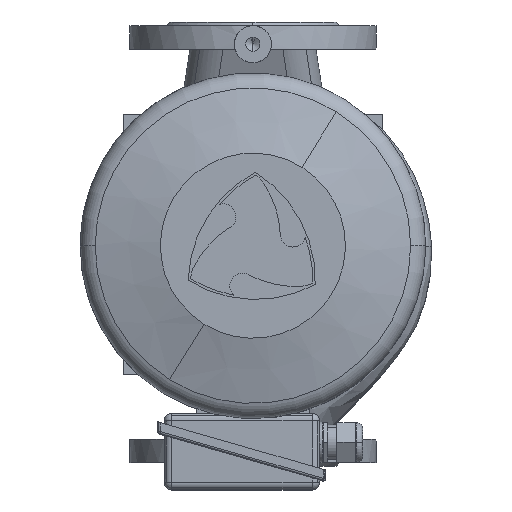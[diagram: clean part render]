
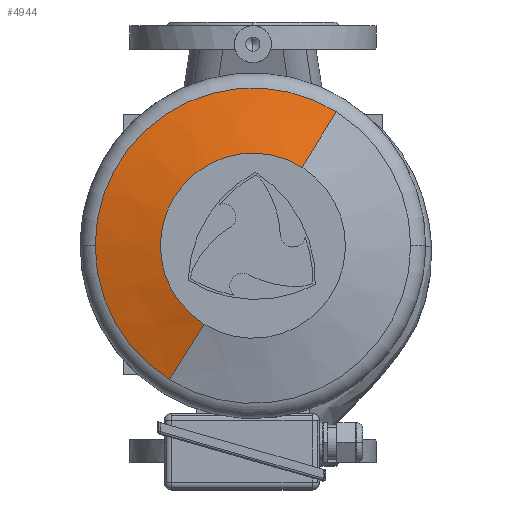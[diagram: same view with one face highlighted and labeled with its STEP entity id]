
A CAD part, top view. The second image highlights one B-rep face of the part: STEP entity #4944.
In plain terms, the highlighted conical face has half-angle 75 degrees and reference radius 101.423 mm.
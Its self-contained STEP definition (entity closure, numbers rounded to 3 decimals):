
#4944=ADVANCED_FACE('',(#10638),#10639,.T.);
#5020=EDGE_CURVE('',#10754,#10755,#10756,.T.);
#5022=EDGE_CURVE('',#10755,#10758,#10759,.T.);
#5024=EDGE_CURVE('',#10761,#10762,#10763,.T.);
#10638=FACE_OUTER_BOUND('',#22115,.T.);
#10639=CONICAL_SURFACE('',#22116,101.423,1.309);
#10754=VERTEX_POINT('',#22232);
#10755=VERTEX_POINT('',#22233);
#10756=CIRCLE('',#22234,127.845);
#10758=VERTEX_POINT('',#22237);
#10759=CIRCLE('',#22238,127.845);
#10761=VERTEX_POINT('',#22241);
#10762=VERTEX_POINT('',#22242);
#10763=CIRCLE('',#22243,75.);
#22115=EDGE_LOOP('',(#33023,#33024,#33025,#33026,#33027));
#22116=AXIS2_PLACEMENT_3D('',#33028,#33029,#33030);
#22232=CARTESIAN_POINT('',(67.675,108.465,435.616));
#22233=CARTESIAN_POINT('',(-127.845,0.,435.616));
#22234=AXIS2_PLACEMENT_3D('',#33378,#33379,#33380);
#22237=CARTESIAN_POINT('',(-67.675,-108.465,435.616));
#22238=AXIS2_PLACEMENT_3D('',#33381,#33382,#33383);
#22241=CARTESIAN_POINT('',(39.701,63.63,449.776));
#22242=CARTESIAN_POINT('',(-39.701,-63.63,449.776));
#22243=AXIS2_PLACEMENT_3D('',#33384,#33385,#33386);
#33023=ORIENTED_EDGE('',*,*,#39449,.F.);
#33024=ORIENTED_EDGE('',*,*,#5020,.T.);
#33025=ORIENTED_EDGE('',*,*,#5022,.T.);
#33026=ORIENTED_EDGE('',*,*,#39450,.F.);
#33027=ORIENTED_EDGE('',*,*,#5024,.F.);
#33028=CARTESIAN_POINT('',(0.,0.,442.696));
#33029=DIRECTION('',(-0.0,0.0,-1.0));
#33030=DIRECTION('',(0.529,0.848,0.0));
#33378=CARTESIAN_POINT('',(0.,0.,435.616));
#33379=DIRECTION('',(0.0,-0.0,1.0));
#33380=DIRECTION('',(0.529,0.848,0.0));
#33381=CARTESIAN_POINT('',(0.,0.,435.616));
#33382=DIRECTION('',(0.0,-0.0,1.0));
#33383=DIRECTION('',(0.529,0.848,0.0));
#33384=CARTESIAN_POINT('',(0.,0.,449.776));
#33385=DIRECTION('',(0.0,-0.0,1.0));
#33386=DIRECTION('',(0.529,0.848,0.0));
#39449=EDGE_CURVE('',#10754,#10761,#40899,.T.);
#39450=EDGE_CURVE('',#10762,#10758,#40900,.T.);
#40899=LINE('',#42626,#42627);
#40900=LINE('',#42628,#42629);
#42626=CARTESIAN_POINT('',(53.688,86.047,442.696));
#42627=VECTOR('',#46925,1.0);
#42628=CARTESIAN_POINT('',(-53.688,-86.047,442.696));
#42629=VECTOR('',#46926,1.0);
#46925=DIRECTION('',(-0.511,-0.819,0.259));
#46926=DIRECTION('',(-0.511,-0.819,-0.259));
